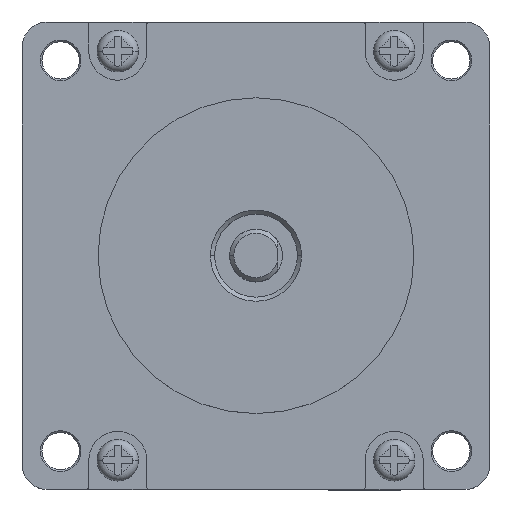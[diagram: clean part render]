
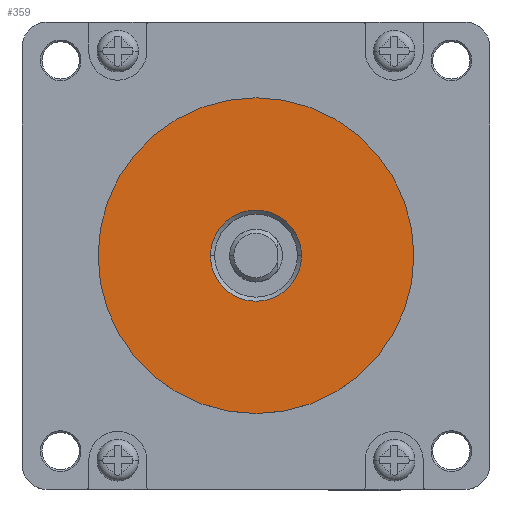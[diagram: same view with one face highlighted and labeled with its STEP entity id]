
A CAD part, top view. The second image highlights one B-rep face of the part: STEP entity #359.
In plain terms, the highlighted planar face has unit normal (0, 0, 1).
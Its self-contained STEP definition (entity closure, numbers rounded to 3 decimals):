
#52 = DIRECTION ( 'NONE',  ( 1., 0., 0. ) ) ;
#53 = DIRECTION ( 'NONE',  ( 0., 0., -1. ) ) ;
#54 = CARTESIAN_POINT ( 'NONE',  ( 0., 0., 4.1 ) ) ;
#84 = DIRECTION ( 'NONE',  ( 1., 0., 0. ) ) ;
#85 = DIRECTION ( 'NONE',  ( 0., 0., 1. ) ) ;
#86 = CARTESIAN_POINT ( 'NONE',  ( 0., 0., 4.1 ) ) ;
#359 = ADVANCED_FACE ( 'NONE', ( #8284, #8289 ), #4763, .T. ) ;
#1562 = CARTESIAN_POINT ( 'NONE',  ( -19.05, 0., 4.1 ) ) ;
#1573 = CARTESIAN_POINT ( 'NONE',  ( 19.05, 0., 4.1 ) ) ;
#1704 = CARTESIAN_POINT ( 'NONE',  ( -5.5, 0., 4.1 ) ) ;
#1726 = CARTESIAN_POINT ( 'NONE',  ( 5.5, 0., 4.1 ) ) ;
#2496 = EDGE_CURVE ( 'NONE', #7275, #7264, #4388, .T. ) ;
#2507 = EDGE_CURVE ( 'NONE', #7428, #7406, #4405, .T. ) ;
#3101 = CARTESIAN_POINT ( 'NONE',  ( 0., 0., 4.1 ) ) ;
#3109 = DIRECTION ( 'NONE',  ( 0., 0., -1. ) ) ;
#3110 = DIRECTION ( 'NONE',  ( 1., 0., 0. ) ) ;
#3123 = CARTESIAN_POINT ( 'NONE',  ( 0., 0., 4.1 ) ) ;
#3124 = DIRECTION ( 'NONE',  ( 0., 0., 1. ) ) ;
#3125 = DIRECTION ( 'NONE',  ( 1., 0., 0. ) ) ;
#4388 = CIRCLE ( 'NONE', #6986, 19.05 ) ;
#4405 = CIRCLE ( 'NONE', #6989, 5.5 ) ;
#4760 = DIRECTION ( 'NONE',  ( 1., 0., 0. ) ) ;
#4761 = DIRECTION ( 'NONE',  ( 0., 0., 1. ) ) ;
#4763 = PLANE ( 'NONE',  #6891 ) ;
#4764 = CARTESIAN_POINT ( 'NONE',  ( 0., 0., 4.1 ) ) ;
#4876 = EDGE_CURVE ( 'NONE', #7406, #7428, #7693, .T. ) ;
#4882 = EDGE_CURVE ( 'NONE', #7264, #7275, #7702, .T. ) ;
#5505 = ORIENTED_EDGE ( 'NONE', *, *, #2507, .T. ) ;
#5506 = ORIENTED_EDGE ( 'NONE', *, *, #4876, .T. ) ;
#5507 = ORIENTED_EDGE ( 'NONE', *, *, #4882, .T. ) ;
#5508 = ORIENTED_EDGE ( 'NONE', *, *, #2496, .T. ) ;
#6612 = EDGE_LOOP ( 'NONE', ( #5505, #5506 ) ) ;
#6666 = EDGE_LOOP ( 'NONE', ( #5507, #5508 ) ) ;
#6891 = AXIS2_PLACEMENT_3D ( 'NONE', #4764, #4761, #4760 ) ;
#6986 = AXIS2_PLACEMENT_3D ( 'NONE', #86, #85, #84 ) ;
#6989 = AXIS2_PLACEMENT_3D ( 'NONE', #54, #53, #52 ) ;
#7063 = AXIS2_PLACEMENT_3D ( 'NONE', #3101, #3109, #3110 ) ;
#7065 = AXIS2_PLACEMENT_3D ( 'NONE', #3123, #3124, #3125 ) ;
#7264 = VERTEX_POINT ( 'NONE', #1562 ) ;
#7275 = VERTEX_POINT ( 'NONE', #1573 ) ;
#7406 = VERTEX_POINT ( 'NONE', #1704 ) ;
#7428 = VERTEX_POINT ( 'NONE', #1726 ) ;
#7693 = CIRCLE ( 'NONE', #7063, 5.5 ) ;
#7702 = CIRCLE ( 'NONE', #7065, 19.05 ) ;
#8284 = FACE_BOUND ( 'NONE', #6612, .T. ) ;
#8289 = FACE_OUTER_BOUND ( 'NONE', #6666, .T. ) ;
